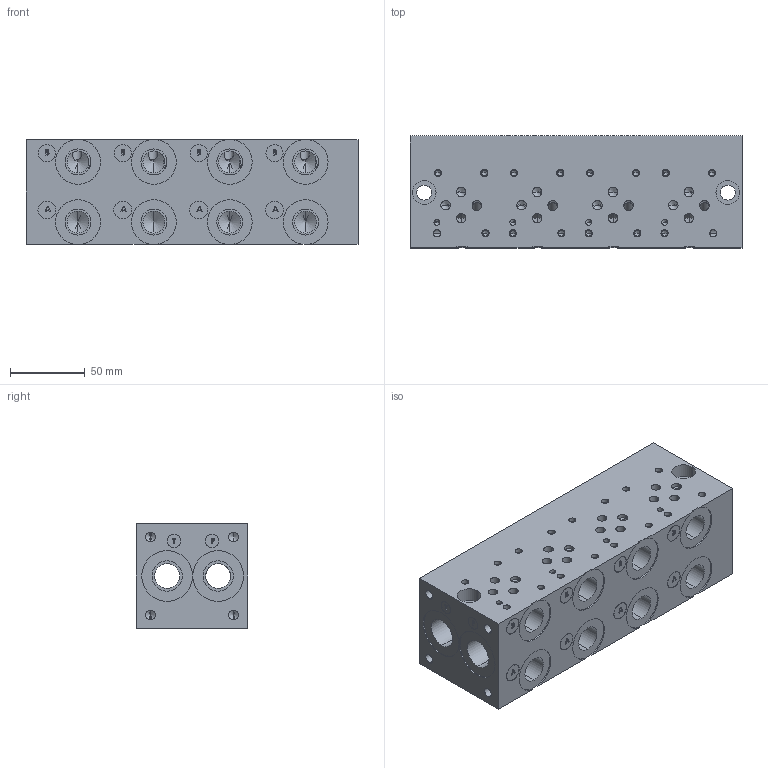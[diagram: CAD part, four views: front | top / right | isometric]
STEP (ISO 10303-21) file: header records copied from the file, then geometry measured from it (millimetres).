
FILE_DESCRIPTION (( 'STEP AP203' ), '1' );
FILE_NAME ('BM-ASP03S2-04-1_Z.STEP', '2015-01-06T15:38:33', ( '' ), ( '' ), 'SwSTEP 2.0', 'SolidWorks 2014', '' );
FILE_SCHEMA (( 'CONFIG_CONTROL_DESIGN' ));
Length unit declared in the file: inch
Products named in the file (1): BM-ASP03S2-04-1_Z
Bounding box: 222.25 x 74.93 x 69.85 mm (x, y, z)
Volume: 977399.2 mm3; surface area: 128780.2 mm2
Topology: 1 solids, 1 shells, 566 faces, 1441 edges, 887 vertices
Faces by surface type: cylinder 224, plane 198, cone 96, bspline 48
Entity records: 20480 total; most frequent: CARTESIAN_POINT 7231, ORIENTED_EDGE 2714, DIRECTION 2633, EDGE_CURVE 1357, AXIS2_PLACEMENT_3D 951, VERTEX_POINT 887, LINE 731, VECTOR 731
